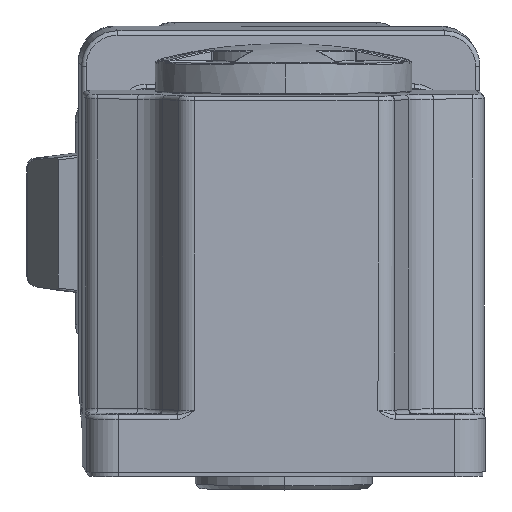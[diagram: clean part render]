
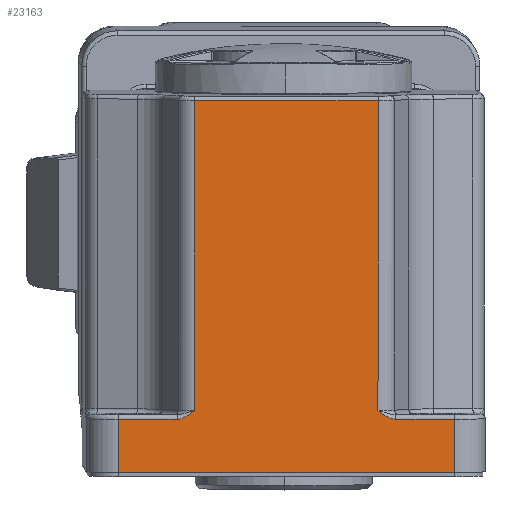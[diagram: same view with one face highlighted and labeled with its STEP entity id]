
A CAD part, top view. The second image highlights one B-rep face of the part: STEP entity #23163.
In plain terms, the highlighted planar face has unit normal (0.014, -0.021, 1) as drawn and (1, 0, 0) by its records, which use the part's own axes.
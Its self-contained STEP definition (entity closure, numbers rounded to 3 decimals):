
#19372=CARTESIAN_POINT('',(2776.292,-828.157,38.));
#19373=VERTEX_POINT('',#19372);
#19381=CARTESIAN_POINT('',(2776.292,-828.157,-38.));
#19382=VERTEX_POINT('',#19381);
#19383=CARTESIAN_POINT('',(2776.292,-828.157,-38.));
#19384=DIRECTION('',(0.,0.,1.));
#19385=VECTOR('',#19384,76.);
#19386=LINE('',#19383,#19385);
#19387=EDGE_CURVE('',#19382,#19373,#19386,.T.);
#23066=CARTESIAN_POINT('',(2776.292,-816.157,-38.));
#23067=VERTEX_POINT('',#23066);
#23068=CARTESIAN_POINT('',(2776.292,-816.157,-38.));
#23069=DIRECTION('',(0.,-1.,0.));
#23070=VECTOR('',#23069,12.);
#23071=LINE('',#23068,#23070);
#23072=EDGE_CURVE('',#23067,#19382,#23071,.T.);
#23084=CARTESIAN_POINT('',(2776.292,-673.878,38.));
#23085=DIRECTION('',(-1.,0.,0.));
#23086=DIRECTION('',(0.,0.,1.));
#23087=AXIS2_PLACEMENT_3D('',#23084,#23085,#23086);
#23088=PLANE('',#23087);
#23089=CARTESIAN_POINT('',(2776.292,-744.157,-20.695));
#23090=VERTEX_POINT('',#23089);
#23091=CARTESIAN_POINT('',(2776.292,-814.157,-20.695));
#23092=VERTEX_POINT('',#23091);
#23093=CARTESIAN_POINT('',(2776.292,-744.157,-20.695));
#23094=DIRECTION('',(0.,-1.,0.));
#23095=VECTOR('',#23094,70.);
#23096=LINE('',#23093,#23095);
#23097=EDGE_CURVE('',#23090,#23092,#23096,.T.);
#23098=ORIENTED_EDGE('',*,*,#23097,.T.);
#23099=CARTESIAN_POINT('',(2776.292,-816.157,-24.695));
#23100=VERTEX_POINT('',#23099);
#23101=CARTESIAN_POINT('',(2776.292,-816.157,-24.695));
#23102=CARTESIAN_POINT('',(2776.292,-816.144,-24.396));
#23103=CARTESIAN_POINT('',(2776.292,-816.038,-23.778));
#23104=CARTESIAN_POINT('',(2776.292,-815.674,-22.766));
#23105=CARTESIAN_POINT('',(2776.292,-815.005,-21.753));
#23106=CARTESIAN_POINT('',(2776.292,-814.462,-21.051));
#23107=CARTESIAN_POINT('',(2776.292,-814.157,-20.695));
#23108=B_SPLINE_CURVE_WITH_KNOTS('',3,(#23101,#23102,#23103,#23104,#23105,#23106,#23107),.UNSPECIFIED.,.F.,.F.,(4,1,1,1,4),(0.,0.25,0.5,0.75,1.),.UNSPECIFIED.);
#23109=EDGE_CURVE('',#23100,#23092,#23108,.T.);
#23110=ORIENTED_EDGE('',*,*,#23109,.F.);
#23111=CARTESIAN_POINT('',(2776.292,-816.157,-24.695));
#23112=DIRECTION('',(0.,0.,-1.));
#23113=VECTOR('',#23112,13.305);
#23114=LINE('',#23111,#23113);
#23115=EDGE_CURVE('',#23100,#23067,#23114,.T.);
#23116=ORIENTED_EDGE('',*,*,#23115,.T.);
#23117=ORIENTED_EDGE('',*,*,#23072,.T.);
#23118=ORIENTED_EDGE('',*,*,#19387,.T.);
#23119=CARTESIAN_POINT('',(2776.292,-816.157,38.));
#23120=VERTEX_POINT('',#23119);
#23121=CARTESIAN_POINT('',(2776.292,-828.157,38.));
#23122=DIRECTION('',(0.,1.,0.));
#23123=VECTOR('',#23122,12.);
#23124=LINE('',#23121,#23123);
#23125=EDGE_CURVE('',#19373,#23120,#23124,.T.);
#23126=ORIENTED_EDGE('',*,*,#23125,.T.);
#23127=CARTESIAN_POINT('',(2776.292,-816.157,24.695));
#23128=VERTEX_POINT('',#23127);
#23129=CARTESIAN_POINT('',(2776.292,-816.157,38.));
#23130=DIRECTION('',(0.,0.,-1.));
#23131=VECTOR('',#23130,13.305);
#23132=LINE('',#23129,#23131);
#23133=EDGE_CURVE('',#23120,#23128,#23132,.T.);
#23134=ORIENTED_EDGE('',*,*,#23133,.T.);
#23135=CARTESIAN_POINT('',(2776.292,-814.157,20.695));
#23136=VERTEX_POINT('',#23135);
#23137=CARTESIAN_POINT('',(2776.292,-816.157,24.695));
#23138=CARTESIAN_POINT('',(2776.292,-816.158,24.396));
#23139=CARTESIAN_POINT('',(2776.292,-816.071,23.777));
#23140=CARTESIAN_POINT('',(2776.292,-815.675,22.772));
#23141=CARTESIAN_POINT('',(2776.292,-815.014,21.753));
#23142=CARTESIAN_POINT('',(2776.292,-814.465,21.051));
#23143=CARTESIAN_POINT('',(2776.292,-814.157,20.695));
#23144=B_SPLINE_CURVE_WITH_KNOTS('',3,(#23137,#23138,#23139,#23140,#23141,#23142,#23143),.UNSPECIFIED.,.F.,.F.,(4,1,1,1,4),(0.,0.25,0.5,0.75,1.),.UNSPECIFIED.);
#23145=EDGE_CURVE('',#23128,#23136,#23144,.T.);
#23146=ORIENTED_EDGE('',*,*,#23145,.T.);
#23147=CARTESIAN_POINT('',(2776.292,-744.157,20.695));
#23148=VERTEX_POINT('',#23147);
#23149=CARTESIAN_POINT('',(2776.292,-814.157,20.695));
#23150=DIRECTION('',(0.,1.,0.));
#23151=VECTOR('',#23150,70.);
#23152=LINE('',#23149,#23151);
#23153=EDGE_CURVE('',#23136,#23148,#23152,.T.);
#23154=ORIENTED_EDGE('',*,*,#23153,.T.);
#23155=CARTESIAN_POINT('',(2776.292,-744.157,20.695));
#23156=DIRECTION('',(0.,0.,-1.));
#23157=VECTOR('',#23156,41.391);
#23158=LINE('',#23155,#23157);
#23159=EDGE_CURVE('',#23148,#23090,#23158,.T.);
#23160=ORIENTED_EDGE('',*,*,#23159,.T.);
#23161=EDGE_LOOP('',(#23098,#23110,#23116,#23117,#23118,#23126,#23134,#23146,#23154,#23160));
#23162=FACE_BOUND('',#23161,.F.);
#23163=ADVANCED_FACE('',(#23162),#23088,.F.);
